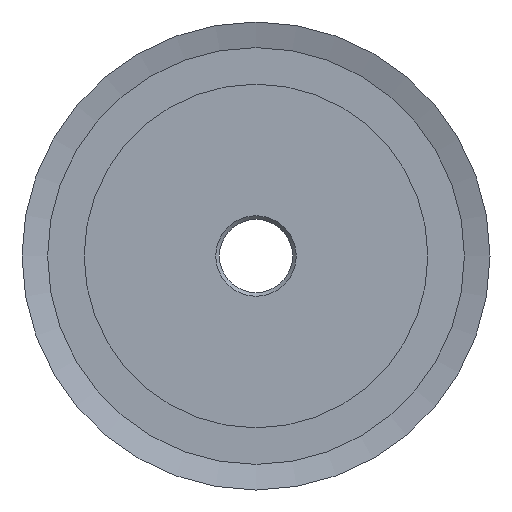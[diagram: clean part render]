
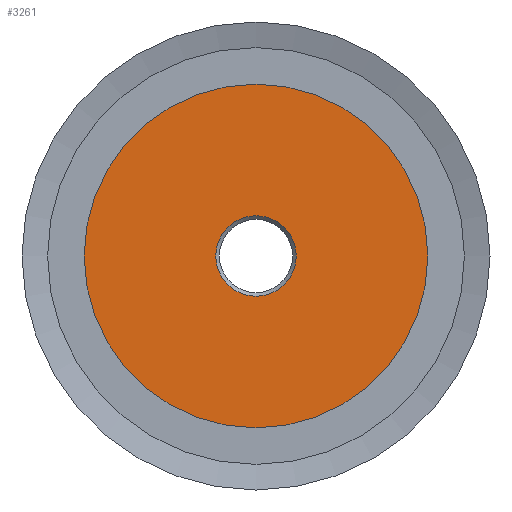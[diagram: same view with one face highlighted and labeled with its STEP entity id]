
A CAD part, left-side view. The second image highlights one B-rep face of the part: STEP entity #3261.
In plain terms, the highlighted planar face has unit normal (-1, 0, 0).
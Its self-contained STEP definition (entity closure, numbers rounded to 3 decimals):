
#38=FACE_BOUND('',#436,.T.);
#102=PLANE('',#3692);
#263=FACE_OUTER_BOUND('',#435,.T.);
#435=EDGE_LOOP('',(#2800));
#436=EDGE_LOOP('',(#2801));
#1204=CIRCLE('',#3691,5.5);
#1205=CIRCLE('',#3693,23.5);
#1528=VERTEX_POINT('',#5703);
#1529=VERTEX_POINT('',#5707);
#2005=EDGE_CURVE('',#1528,#1528,#1204,.T.);
#2006=EDGE_CURVE('',#1529,#1529,#1205,.T.);
#2800=ORIENTED_EDGE('',*,*,#2006,.F.);
#2801=ORIENTED_EDGE('',*,*,#2005,.T.);
#3261=ADVANCED_FACE('',(#263,#38),#102,.T.);
#3691=AXIS2_PLACEMENT_3D('',#5705,#4696,#4697);
#3692=AXIS2_PLACEMENT_3D('',#5706,#4698,#4699);
#3693=AXIS2_PLACEMENT_3D('',#5708,#4700,#4701);
#4696=DIRECTION('center_axis',(1.,0.,0.));
#4697=DIRECTION('ref_axis',(0.,0.,-1.));
#4698=DIRECTION('center_axis',(-1.,0.,0.));
#4699=DIRECTION('ref_axis',(0.,0.,1.));
#4700=DIRECTION('center_axis',(1.,0.,0.));
#4701=DIRECTION('ref_axis',(0.,0.,-1.));
#5703=CARTESIAN_POINT('',(0.,-5.5,0.));
#5705=CARTESIAN_POINT('Origin',(0.,0.,0.));
#5706=CARTESIAN_POINT('Origin',(0.,23.5,0.));
#5707=CARTESIAN_POINT('',(0.,-23.5,0.));
#5708=CARTESIAN_POINT('Origin',(0.,0.,0.));
